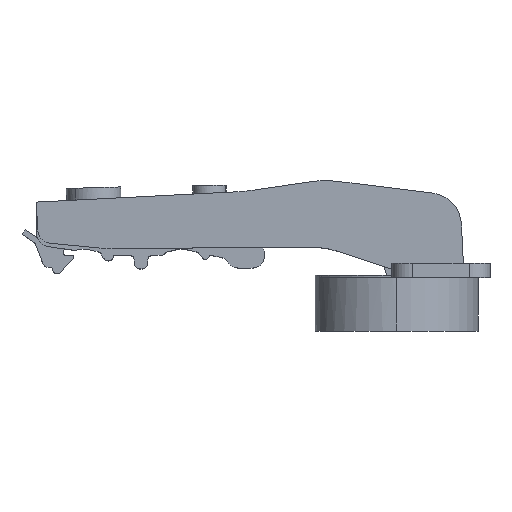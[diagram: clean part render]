
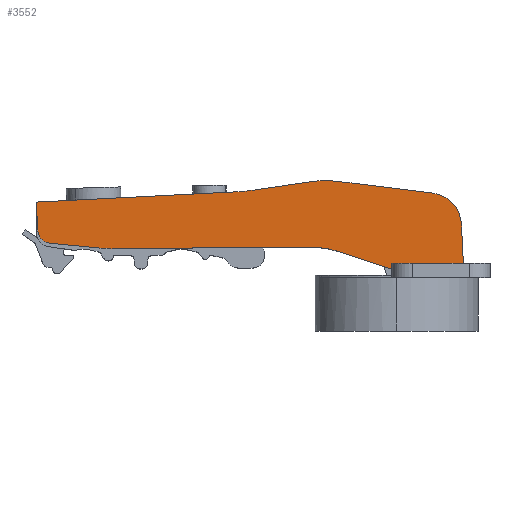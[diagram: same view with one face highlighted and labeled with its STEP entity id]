
A CAD part, top view. The second image highlights one B-rep face of the part: STEP entity #3552.
In plain terms, the highlighted planar face has unit normal (0, 0, 1).
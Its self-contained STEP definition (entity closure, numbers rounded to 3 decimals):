
#45 = AXIS2_PLACEMENT_3D ( 'NONE', #384, #4067, #3038 ) ;
#48 = CARTESIAN_POINT ( 'NONE',  ( -30.371, 18.727, 8.6 ) ) ;
#64 = DIRECTION ( 'NONE',  ( 0.995, -0.097, 0. ) ) ;
#67 = FACE_OUTER_BOUND ( 'NONE', #2701, .T. ) ;
#130 = DIRECTION ( 'NONE',  ( 1., 0., 0. ) ) ;
#134 = EDGE_CURVE ( 'NONE', #3346, #3117, #1120, .T. ) ;
#160 = CIRCLE ( 'NONE', #3163, 20. ) ;
#197 = LINE ( 'NONE', #3211, #3534 ) ;
#204 = DIRECTION ( 'NONE',  ( -0.999, -0.051, 0. ) ) ;
#244 = CARTESIAN_POINT ( 'NONE',  ( -60.504, 6.226, 8.6 ) ) ;
#305 = CARTESIAN_POINT ( 'NONE',  ( -12.261, 5.544, 8.6 ) ) ;
#359 = EDGE_CURVE ( 'NONE', #4230, #3820, #1762, .T. ) ;
#360 = EDGE_CURVE ( 'NONE', #1621, #556, #2847, .T. ) ;
#384 = CARTESIAN_POINT ( 'NONE',  ( 6.787, 11.121, 8.6 ) ) ;
#398 = ORIENTED_EDGE ( 'NONE', *, *, #3445, .T. ) ;
#411 = VERTEX_POINT ( 'NONE', #1568 ) ;
#525 = AXIS2_PLACEMENT_3D ( 'NONE', #1455, #2266, #3119 ) ;
#528 = VECTOR ( 'NONE', #771, 1000. ) ;
#556 = VERTEX_POINT ( 'NONE', #2887 ) ;
#576 = VECTOR ( 'NONE', #204, 1000. ) ;
#663 = CARTESIAN_POINT ( 'NONE',  ( -34.191, 18.346, 8.6 ) ) ;
#666 = VERTEX_POINT ( 'NONE', #1982 ) ;
#682 = ORIENTED_EDGE ( 'NONE', *, *, #2003, .T. ) ;
#771 = DIRECTION ( 'NONE',  ( 0.95, -0.313, 0. ) ) ;
#803 = AXIS2_PLACEMENT_3D ( 'NONE', #3837, #851, #1113 ) ;
#851 = DIRECTION ( 'NONE',  ( 0., 0., 1. ) ) ;
#898 = CARTESIAN_POINT ( 'NONE',  ( -1.082, 1.862, 8.6 ) ) ;
#930 = EDGE_CURVE ( 'NONE', #4056, #3285, #160, .T. ) ;
#939 = CARTESIAN_POINT ( 'NONE',  ( 13.919, 8.738, 8.6 ) ) ;
#966 = LINE ( 'NONE', #1303, #1924 ) ;
#1113 = DIRECTION ( 'NONE',  ( 1., 0., 0. ) ) ;
#1116 = ORIENTED_EDGE ( 'NONE', *, *, #2961, .T. ) ;
#1120 = LINE ( 'NONE', #3175, #576 ) ;
#1158 = CARTESIAN_POINT ( 'NONE',  ( -12.793, 20.6, 8.6 ) ) ;
#1190 = DIRECTION ( 'NONE',  ( 1., 0., 0. ) ) ;
#1230 = CARTESIAN_POINT ( 'NONE',  ( -36.242, 58.294, 8.6 ) ) ;
#1275 = CARTESIAN_POINT ( 'NONE',  ( -30.371, 18.727, 8.6 ) ) ;
#1303 = CARTESIAN_POINT ( 'NONE',  ( -73.932, 7.369, 8.6 ) ) ;
#1318 = VERTEX_POINT ( 'NONE', #2365 ) ;
#1377 = DIRECTION ( 'NONE',  ( -0.989, -0.147, 0. ) ) ;
#1391 = CARTESIAN_POINT ( 'NONE',  ( -15.251, 0.751, 8.6 ) ) ;
#1435 = DIRECTION ( 'NONE',  ( -0.992, 0.123, 0. ) ) ;
#1455 = CARTESIAN_POINT ( 'NONE',  ( -73.641, 10.354, 8.6 ) ) ;
#1462 = CARTESIAN_POINT ( 'NONE',  ( -12.261, 5.544, 8.6 ) ) ;
#1468 = CARTESIAN_POINT ( 'NONE',  ( 7.647, 18.068, 8.6 ) ) ;
#1568 = CARTESIAN_POINT ( 'NONE',  ( -18.186, 20.535, 8.6 ) ) ;
#1621 = VERTEX_POINT ( 'NONE', #3362 ) ;
#1661 = DIRECTION ( 'NONE',  ( 1., 0., 0. ) ) ;
#1690 = VECTOR ( 'NONE', #3230, 1000. ) ;
#1723 = CARTESIAN_POINT ( 'NONE',  ( -1.082, 3.1, 8.6 ) ) ;
#1734 = ORIENTED_EDGE ( 'NONE', *, *, #360, .T. ) ;
#1762 = LINE ( 'NONE', #898, #3565 ) ;
#1782 = AXIS2_PLACEMENT_3D ( 'NONE', #3769, #2487, #1190 ) ;
#1784 = DIRECTION ( 'NONE',  ( 0., 0., -1. ) ) ;
#1843 = CIRCLE ( 'NONE', #3941, 40. ) ;
#1924 = VECTOR ( 'NONE', #64, 1000. ) ;
#1982 = CARTESIAN_POINT ( 'NONE',  ( -73.932, 7.369, 8.6 ) ) ;
#2003 = EDGE_CURVE ( 'NONE', #2354, #2789, #4105, .T. ) ;
#2015 = EDGE_CURVE ( 'NONE', #3075, #666, #4150, .T. ) ;
#2039 = EDGE_CURVE ( 'NONE', #4215, #3346, #1843, .T. ) ;
#2042 = PLANE ( 'NONE',  #45 ) ;
#2072 = CIRCLE ( 'NONE', #2620, 20. ) ;
#2120 = VECTOR ( 'NONE', #1435, 1000. ) ;
#2156 = CARTESIAN_POINT ( 'NONE',  ( -63.641, 6.367, 8.6 ) ) ;
#2176 = CARTESIAN_POINT ( 'NONE',  ( -76.637, 10.201, 8.6 ) ) ;
#2245 = EDGE_CURVE ( 'NONE', #3285, #4230, #3292, .T. ) ;
#2266 = DIRECTION ( 'NONE',  ( 0., 0., 1. ) ) ;
#2354 = VERTEX_POINT ( 'NONE', #1468 ) ;
#2365 = CARTESIAN_POINT ( 'NONE',  ( -60.504, 6.226, 8.6 ) ) ;
#2487 = DIRECTION ( 'NONE',  ( 0., 0., 1. ) ) ;
#2550 = CIRCLE ( 'NONE', #1782, 30. ) ;
#2552 = CARTESIAN_POINT ( 'NONE',  ( -1.082, 3.1, 8.6 ) ) ;
#2570 = DIRECTION ( 'NONE',  ( 0., 1., 0. ) ) ;
#2571 = ORIENTED_EDGE ( 'NONE', *, *, #2015, .T. ) ;
#2580 = ORIENTED_EDGE ( 'NONE', *, *, #2849, .T. ) ;
#2620 = AXIS2_PLACEMENT_3D ( 'NONE', #1391, #2713, #4051 ) ;
#2701 = EDGE_LOOP ( 'NONE', ( #4069, #2571, #1116, #2877, #3730, #3303, #3154, #3183, #3970, #1734, #2580, #682, #2919, #398, #3139, #4010 ) ) ;
#2713 = DIRECTION ( 'NONE',  ( 0., 0., 1. ) ) ;
#2789 = VERTEX_POINT ( 'NONE', #1158 ) ;
#2847 = LINE ( 'NONE', #939, #1690 ) ;
#2849 = EDGE_CURVE ( 'NONE', #556, #2354, #4024, .T. ) ;
#2850 = DIRECTION ( 'NONE',  ( 0.051, -0.999, 0. ) ) ;
#2877 = ORIENTED_EDGE ( 'NONE', *, *, #3667, .T. ) ;
#2887 = CARTESIAN_POINT ( 'NONE',  ( 13.778, 11.48, 8.6 ) ) ;
#2890 = VECTOR ( 'NONE', #1661, 1000. ) ;
#2919 = ORIENTED_EDGE ( 'NONE', *, *, #3446, .T. ) ;
#2935 = CARTESIAN_POINT ( 'NONE',  ( -76.942, 16.151, 8.6 ) ) ;
#2961 = EDGE_CURVE ( 'NONE', #666, #4163, #966, .T. ) ;
#2998 = EDGE_CURVE ( 'NONE', #3820, #1621, #3709, .T. ) ;
#3038 = DIRECTION ( 'NONE',  ( 1., 0., 0. ) ) ;
#3075 = VERTEX_POINT ( 'NONE', #2176 ) ;
#3117 = VERTEX_POINT ( 'NONE', #2935 ) ;
#3119 = DIRECTION ( 'NONE',  ( 1., 0., 0. ) ) ;
#3139 = ORIENTED_EDGE ( 'NONE', *, *, #2039, .T. ) ;
#3147 = DIRECTION ( 'NONE',  ( 1., 0., 0. ) ) ;
#3154 = ORIENTED_EDGE ( 'NONE', *, *, #2245, .T. ) ;
#3163 = AXIS2_PLACEMENT_3D ( 'NONE', #3379, #3173, #3147 ) ;
#3173 = DIRECTION ( 'NONE',  ( 0., 0., -1. ) ) ;
#3175 = CARTESIAN_POINT ( 'NONE',  ( -76.942, 16.151, 8.6 ) ) ;
#3183 = ORIENTED_EDGE ( 'NONE', *, *, #359, .T. ) ;
#3211 = CARTESIAN_POINT ( 'NONE',  ( -76.942, 16.151, 8.6 ) ) ;
#3230 = DIRECTION ( 'NONE',  ( -0.051, 0.999, 0. ) ) ;
#3234 = LINE ( 'NONE', #244, #3249 ) ;
#3249 = VECTOR ( 'NONE', #3979, 1000. ) ;
#3285 = VERTEX_POINT ( 'NONE', #1462 ) ;
#3292 = LINE ( 'NONE', #305, #528 ) ;
#3296 = CARTESIAN_POINT ( 'NONE',  ( -1.082, 1.862, 8.6 ) ) ;
#3303 = ORIENTED_EDGE ( 'NONE', *, *, #930, .T. ) ;
#3346 = VERTEX_POINT ( 'NONE', #663 ) ;
#3362 = CARTESIAN_POINT ( 'NONE',  ( 14.208, 3.1, 8.6 ) ) ;
#3379 = CARTESIAN_POINT ( 'NONE',  ( -18.518, -13.452, 8.6 ) ) ;
#3395 = LINE ( 'NONE', #48, #3954 ) ;
#3445 = EDGE_CURVE ( 'NONE', #411, #4215, #3395, .T. ) ;
#3446 = EDGE_CURVE ( 'NONE', #2789, #411, #2072, .T. ) ;
#3468 = CARTESIAN_POINT ( 'NONE',  ( -18.671, 6.547, 8.6 ) ) ;
#3534 = VECTOR ( 'NONE', #2850, 1000. ) ;
#3552 = ADVANCED_FACE ( 'NONE', ( #67 ), #2042, .T. ) ;
#3565 = VECTOR ( 'NONE', #2570, 1000. ) ;
#3667 = EDGE_CURVE ( 'NONE', #4163, #1318, #2550, .T. ) ;
#3687 = EDGE_CURVE ( 'NONE', #3117, #3075, #197, .T. ) ;
#3709 = LINE ( 'NONE', #1723, #2890 ) ;
#3730 = ORIENTED_EDGE ( 'NONE', *, *, #3755, .T. ) ;
#3755 = EDGE_CURVE ( 'NONE', #1318, #4056, #3234, .T. ) ;
#3769 = CARTESIAN_POINT ( 'NONE',  ( -60.734, 36.226, 8.6 ) ) ;
#3820 = VERTEX_POINT ( 'NONE', #2552 ) ;
#3837 = CARTESIAN_POINT ( 'NONE',  ( 6.787, 11.121, 8.6 ) ) ;
#3904 = CARTESIAN_POINT ( 'NONE',  ( 7.647, 18.068, 8.6 ) ) ;
#3941 = AXIS2_PLACEMENT_3D ( 'NONE', #1230, #1784, #130 ) ;
#3954 = VECTOR ( 'NONE', #1377, 1000. ) ;
#3970 = ORIENTED_EDGE ( 'NONE', *, *, #2998, .T. ) ;
#3979 = DIRECTION ( 'NONE',  ( 1., 0.008, 0. ) ) ;
#4010 = ORIENTED_EDGE ( 'NONE', *, *, #134, .T. ) ;
#4024 = CIRCLE ( 'NONE', #803, 7. ) ;
#4051 = DIRECTION ( 'NONE',  ( 1., 0., 0. ) ) ;
#4056 = VERTEX_POINT ( 'NONE', #3468 ) ;
#4067 = DIRECTION ( 'NONE',  ( 0., 0., 1. ) ) ;
#4069 = ORIENTED_EDGE ( 'NONE', *, *, #3687, .T. ) ;
#4105 = LINE ( 'NONE', #3904, #2120 ) ;
#4150 = CIRCLE ( 'NONE', #525, 3. ) ;
#4163 = VERTEX_POINT ( 'NONE', #2156 ) ;
#4215 = VERTEX_POINT ( 'NONE', #1275 ) ;
#4230 = VERTEX_POINT ( 'NONE', #3296 ) ;
